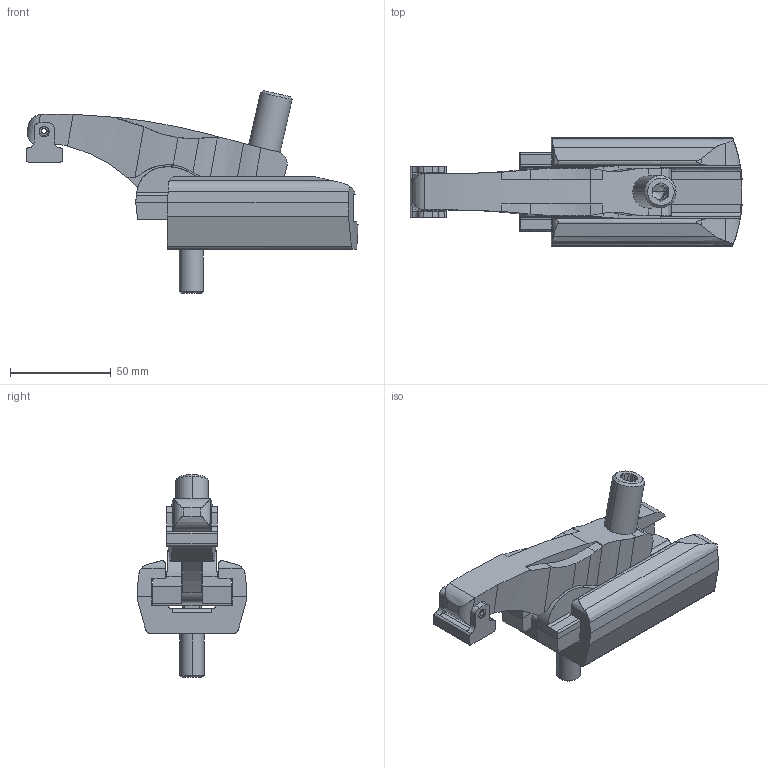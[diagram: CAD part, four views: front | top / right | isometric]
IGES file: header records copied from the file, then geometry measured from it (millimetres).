
Start section: 3D InterOp IGES (v. 2020 1.0.1), Spatial Corp. Copyright (c) 1999-2017.
Global section: file name: HWS104_32_12.igs; native system: Spatial Corp.; preprocessor: 3D InterOp GENERIC/IGES 3.0; author: Noname; organization: Noname; date: 20210303.093306; units: metre
Bounding box: 164.59 x 54 x 100.49 mm (x, y, z)
Surface area: 57315.9 mm2 (no closed solid volume)
Topology: 0 solids, 0 shells, 300 faces, 1670 edges, 1668 vertices
Faces by surface type: extrusion 154, revolution 146
